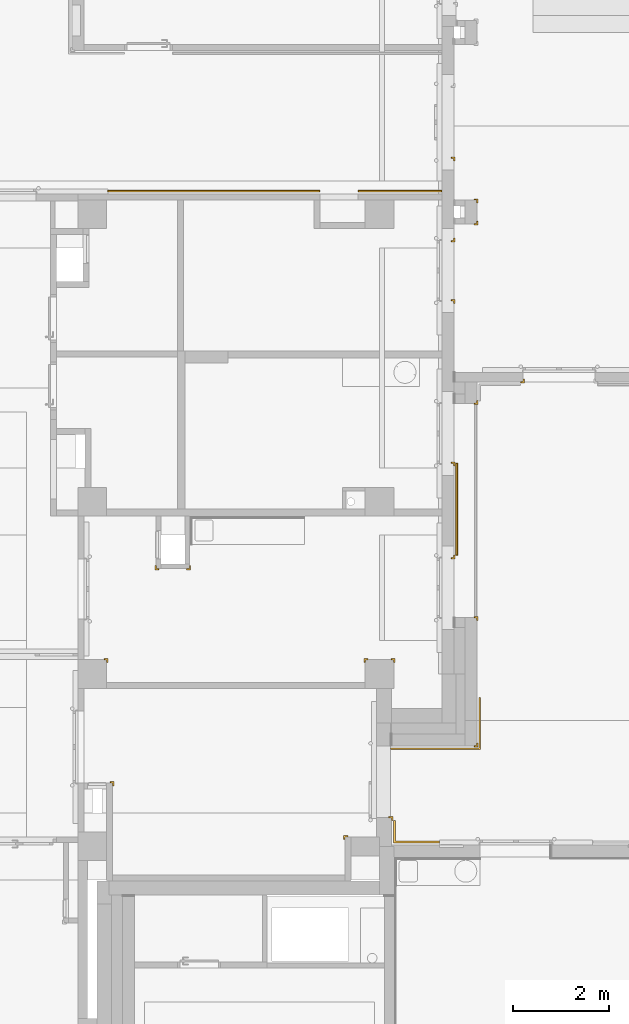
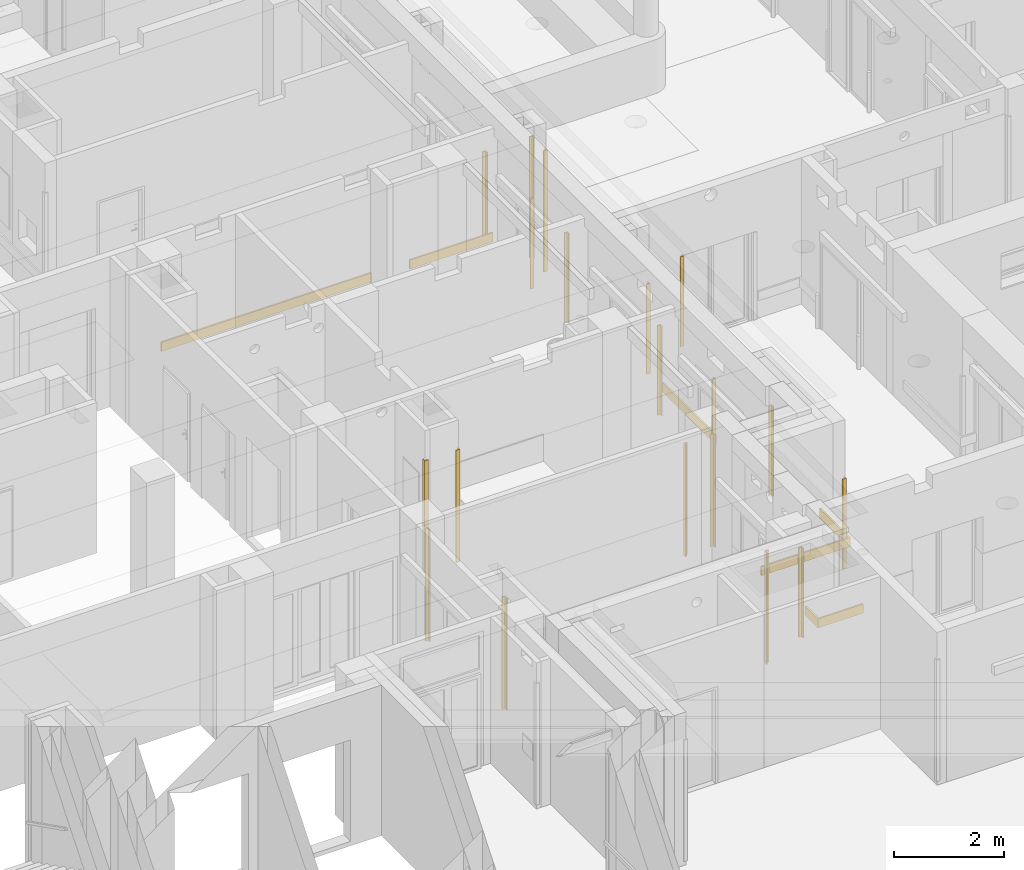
# One storey, part 133 of 140: 24 railings.
"""IFC4 building model written with IfcOpenShell, lengths in metres."""

from ifc_helpers import new_model, entity, si_unit, converted_unit, derived_unit, frame, origin, place, context, subcontext, project, spatial, faceted_brep, element, save


model = new_model("IFC4")

# Units and contexts
model_context = context("Model", 3, precision=1e-05, world=origin())
body_context = subcontext(model_context, "Body", "Model", "MODEL_VIEW")
ifc_project = project(units=[si_unit("LENGTHUNIT", "METRE"), si_unit("AREAUNIT", "SQUARE_METRE"), si_unit("VOLUMEUNIT", "CUBIC_METRE"), si_unit("MASSUNIT", "GRAM", prefix="KILO"), converted_unit("PLANEANGLEUNIT", "DEGREE", entity("IfcPlaneAngleMeasure", 0.0174532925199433), si_unit("PLANEANGLEUNIT", "RADIAN"), dimensions=[0, 0, 0, 0, 0, 0, 0]), derived_unit("THERMALTRANSMITTANCEUNIT", [(si_unit("POWERUNIT", "WATT"), 1), (si_unit("THERMODYNAMICTEMPERATUREUNIT", "KELVIN"), -1), (si_unit("LENGTHUNIT", "METRE"), -2)]), derived_unit("VOLUMETRICFLOWRATEUNIT", [(si_unit("LENGTHUNIT", "METRE"), 3), (converted_unit("TIMEUNIT", "hour", entity("IfcTimeMeasure", 3600.0), si_unit("TIMEUNIT", "SECOND"), dimensions=[0, 0, 1, 0, 0, 0, 0]), -1), (si_unit("LENGTHUNIT", "METRE"), -1)])], contexts=[model_context])

# Site, building, storey
site_placement = place(None, origin())
site = spatial("IfcSite", under=ifc_project, at=site_placement, Name="3. ASŘ", CompositionType="ELEMENT")
building_placement = place(site_placement, origin())
building = spatial("IfcBuilding", under=site, at=building_placement, Name="Pavilon C", CompositionType="ELEMENT")
storey_placement = place(building_placement, origin())
storey = spatial("IfcBuildingStorey", under=building, at=storey_placement, Name="Půdorys 1.NP", CompositionType="ELEMENT", Elevation=0.0)

# Railings
railing_1_placement = place(storey_placement, frame((51.924, 12.98, 0.1)))
element("IfcRailing", 1, at=railing_1_placement, inside=storey, Name="OCHRANA ROHŮ", PredefinedType="USERDEFINED", context=body_context, shape_type="Brep", body=[
    faceted_brep([(0.076, 0.076, 2.7), (0.056, 0.076, 2.7), (0.056, 0.076, 4.54747350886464e-16), (0.076, 0.076, 0.0), (0.076, 0.0, 2.7), (0.0, 0.0, 2.7), (0.0, 0.02, 2.7), (0.056, 0.02, 2.7), (0.056, 0.02, 4.54747350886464e-16), (0.0, 0.02, 4.54747350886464e-16), (0.0, 0.0, 0.0), (0.076, 0.0, 0.0)], [[[0, 1, 2, 3]], [[0, 4, 5, 6, 7, 1]], [[1, 7, 8, 2]], [[2, 8, 9, 10, 11, 3]], [[3, 11, 4, 0]], [[5, 10, 9, 6]], [[7, 6, 9, 8]], [[11, 10, 5, 4]]], orient=[[False], [False], [False], [False], [False], [False], [False], [False]]),
])
railing_2_placement = place(storey_placement, frame((51.924, 13.444, 0.1)))
element("IfcRailing", 2, at=railing_2_placement, inside=storey, Name="OCHRANA ROHŮ", PredefinedType="USERDEFINED", context=body_context, shape_type="Brep", body=[
    faceted_brep([(0.0, 0.076, 2.7), (0.0, 0.056, 2.7), (0.0, 0.056, 4.54747350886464e-16), (0.0, 0.076, 0.0), (0.076, 0.076, 2.7), (0.076, 0.0, 2.7), (0.056, 0.0, 2.7), (0.056, 0.056, 2.7), (0.056, 0.056, 4.54747350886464e-16), (0.056, 0.0, 4.54747350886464e-16), (0.076, 0.0, 0.0), (0.076, 0.076, 0.0)], [[[0, 1, 2, 3]], [[0, 4, 5, 6, 7, 1]], [[1, 7, 8, 2]], [[2, 8, 9, 10, 11, 3]], [[3, 11, 4, 0]], [[5, 10, 9, 6]], [[7, 6, 9, 8]], [[11, 10, 5, 4]]], orient=[[False], [False], [False], [False], [False], [False], [False], [False]]),
])
railing_3_placement = place(storey_placement, frame((51.444, 14.319, 0.1)))
element("IfcRailing", 3, at=railing_3_placement, inside=storey, Name="OCHRANA ROHŮ", PredefinedType="USERDEFINED", context=body_context, shape_type="Brep", body=[
    faceted_brep([(0.0, 0.076, 2.0), (0.0, 0.056, 2.0), (0.0, 0.056, 3.41060513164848e-16), (0.0, 0.076, -1.13686837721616e-16), (0.076, 0.076, 2.0), (0.076, 0.0, 2.0), (0.056, 0.0, 2.0), (0.056, 0.056, 2.0), (0.056, 0.056, 3.41060513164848e-16), (0.056, 0.0, 3.41060513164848e-16), (0.076, 0.0, -1.13686837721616e-16), (0.076, 0.076, -1.13686837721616e-16)], [[[0, 1, 2, 3]], [[0, 4, 5, 6, 7, 1]], [[1, 7, 8, 2]], [[2, 8, 9, 10, 11, 3]], [[3, 11, 4, 0]], [[5, 10, 9, 6]], [[7, 6, 9, 8]], [[11, 10, 5, 4]]], orient=[[False], [False], [False], [False], [False], [False], [False], [False]]),
])
for number, where in (
    (4, (51.444, 12.63, 0.1)),
    (5, (51.924, 9.22999999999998, 0.1)),
    (6, (52.894, 9.67999999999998, 0.1)),
    (7, (51.444, 6.00499999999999, 0.1)),
    (8, (51.924, 2.08, 0.1)),
):
    element("IfcRailing", number, at=place(storey_placement, frame(where)), inside=storey, Name="OCHRANA ROHŮ", PredefinedType="USERDEFINED", context=body_context, shape_type="Brep", body=[
        faceted_brep([(0.0, 0.0, 2.0), (0.0, 0.0, -1.13686837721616e-16), (0.0, 0.02, 3.41060513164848e-16), (0.0, 0.02, 2.0), (0.056, 0.02, 2.0), (0.056, 0.076, 2.0), (0.076, 0.076, 2.0), (0.076, 0.0, 2.0), (0.056, 0.02, 3.41060513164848e-16), (0.076, 0.0, -1.13686837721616e-16), (0.076, 0.076, -1.13686837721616e-16), (0.056, 0.076, 3.41060513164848e-16)], [[[0, 1, 2, 3]], [[0, 3, 4, 5, 6, 7]], [[3, 2, 8, 4]], [[2, 1, 9, 10, 11, 8]], [[1, 0, 7, 9]], [[6, 5, 11, 10]], [[4, 8, 11, 5]], [[9, 7, 6, 10]]], orient=[[False], [False], [False], [False], [False], [False], [False], [False]]),
    ])
for number, where in (
    (9, (51.444, 11.344, 0.1)),
    (10, (51.444, 7.94399999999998, 0.1)),
    (11, (51.924, 4.71899999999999, 0.1)),
    (12, (50.144, 0.543999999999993, 0.1)),
):
    element("IfcRailing", number, at=place(storey_placement, frame(where)), inside=storey, Name="OCHRANA ROHŮ", PredefinedType="USERDEFINED", context=body_context, shape_type="Brep", body=[
        faceted_brep([(0.0, 0.076, 2.0), (0.0, 0.056, 2.0), (0.0, 0.056, 3.41060513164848e-16), (0.0, 0.076, -1.13686837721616e-16), (0.076, 0.076, 2.0), (0.076, 0.0, 2.0), (0.056, 0.0, 2.0), (0.056, 0.056, 2.0), (0.056, 0.056, 3.41060513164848e-16), (0.056, 0.0, 3.41060513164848e-16), (0.076, 0.0, -1.13686837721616e-16), (0.076, 0.076, -1.13686837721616e-16)], [[[0, 1, 2, 3]], [[0, 4, 5, 6, 7, 1]], [[1, 7, 8, 2]], [[2, 8, 9, 10, 11, 3]], [[3, 11, 4, 0]], [[5, 10, 9, 6]], [[7, 6, 9, 8]], [[11, 10, 5, 4]]], orient=[[False], [False], [False], [False], [False], [False], [False], [False]]),
    ])
railing_4_placement = place(storey_placement, frame((49.5, 13.6675, 0.597)))
element("IfcRailing", 13, at=railing_4_placement, inside=storey, Name="NÁRAZOVÉ SVODIDLO", PredefinedType="USERDEFINED", context=body_context, shape_type="Brep", body=[
    faceted_brep([(0.0, 0.035, 0.203), (0.0, 0.0, 0.203), (0.0, 0.0, 0.0), (0.0, 0.035, 0.0), (1.75, 0.035, 0.203), (1.75, 0.035, 0.0), (1.75, 0.0, 0.0), (1.75, 0.0, 0.203)], [[[0, 1, 2, 3]], [[4, 5, 6, 7]], [[0, 4, 7, 1]], [[1, 7, 6, 2]], [[2, 6, 5, 3]], [[3, 5, 4, 0]]], orient=[[False], [False], [False], [False], [False], [False]]),
])
railing_5_placement = place(storey_placement, frame((44.275, 13.6675, 0.597)))
element("IfcRailing", 14, at=railing_5_placement, inside=storey, Name="NÁRAZOVÉ SVODIDLO", PredefinedType="USERDEFINED", context=body_context, shape_type="Brep", body=[
    faceted_brep([(0.0, 0.035, 0.203), (0.0, 0.0, 0.203), (0.0, 0.0, 0.0), (0.0, 0.035, 0.0), (4.425, 0.035, 0.203), (4.425, 0.035, 0.0), (4.425, 0.0, 0.0), (4.425, 0.0, 0.203)], [[[0, 1, 2, 3]], [[4, 5, 6, 7]], [[0, 4, 7, 1]], [[1, 7, 6, 2]], [[2, 6, 5, 3]], [[3, 5, 4, 0]]], orient=[[False], [False], [False], [False], [False], [False]]),
])
railing_6_placement = place(storey_placement, frame((50.18, 2.0225, 0.597)))
element("IfcRailing", 15, at=railing_6_placement, inside=storey, Name="NÁRAZOVÉ SVODIDLO", PredefinedType="USERDEFINED", context=body_context, shape_type="Brep", body=[
    faceted_brep([(0.0, 0.0350000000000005, 0.203), (0.0, 4.54747350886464e-16, 0.203), (0.0, 4.54747350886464e-16, 0.0), (0.0, 0.0350000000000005, 0.0), (1.8425, 0.0350000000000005, 0.203), (1.8425, 1.08249999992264, 0.203), (1.8775, 1.08249999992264, 0.203), (1.8775, 2.27373675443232e-16, 0.203), (1.8775, 2.27373675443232e-16, 0.0), (1.8775, 1.08249999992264, 0.0), (1.8425, 1.08249999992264, 0.0), (1.8425, 0.035, 0.0)], [[[0, 1, 2, 3]], [[0, 4, 5, 6, 7, 1]], [[1, 7, 8, 2]], [[2, 8, 9, 10, 11, 3]], [[3, 11, 4, 0]], [[5, 10, 9, 6]], [[7, 6, 9, 8]], [[11, 10, 5, 4]]], orient=[[False], [False], [False], [False], [False], [False], [False], [False]]),
])
railing_7_placement = place(storey_placement, frame((50.2425, 0.0725000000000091, 0.597)))
element("IfcRailing", 16, at=railing_7_placement, inside=storey, Name="NÁRAZOVÉ SVODIDLO", PredefinedType="USERDEFINED", context=body_context, shape_type="Brep", body=[
    faceted_brep([(0.9575, -1.4210854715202e-17, 0.203), (0.9575, 0.035, 0.203), (0.9575, 0.035, 0.0), (0.9575, 2.8421709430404e-17, 0.0), (0.0, 2.27373675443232e-16, 0.203), (0.0, 0.471499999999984, 0.203), (0.035, 0.471499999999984, 0.203), (0.035, 0.0350000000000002, 0.203), (0.035, 0.0350000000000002, 0.0), (0.035, 0.471499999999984, 0.0), (0.0, 0.471499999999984, 0.0), (0.0, 2.55795384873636e-16, 0.0)], [[[0, 1, 2, 3]], [[0, 4, 5, 6, 7, 1]], [[1, 7, 8, 2]], [[2, 8, 9, 10, 11, 3]], [[3, 11, 4, 0]], [[5, 10, 9, 6]], [[7, 6, 9, 8]], [[11, 10, 5, 4]]], orient=[[False], [False], [False], [False], [False], [False], [False], [False]]),
])
railing_8_placement = place(storey_placement, frame((49.205, 0.143999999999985, 0.1)))
element("IfcRailing", 17, at=railing_8_placement, inside=storey, Name="OCHRANA ROHŮ", PredefinedType="USERDEFINED", context=body_context, shape_type="Brep", body=[
    faceted_brep([(0.0, 0.0, 2.5), (0.02, 0.0, 2.5), (0.02, 0.0, 4.54747350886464e-16), (0.0, 0.0, 0.0), (0.0, 0.076, 2.5), (0.076, 0.076, 2.5), (0.076, 0.056, 2.5), (0.02, 0.056, 2.5), (0.02, 0.056, 4.54747350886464e-16), (0.076, 0.056, 4.54747350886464e-16), (0.076, 0.076, 0.0), (0.0, 0.076, 0.0)], [[[0, 1, 2, 3]], [[0, 4, 5, 6, 7, 1]], [[1, 7, 8, 2]], [[2, 8, 9, 10, 11, 3]], [[3, 11, 4, 0]], [[5, 10, 9, 6]], [[7, 6, 9, 8]], [[11, 10, 5, 4]]], orient=[[False], [False], [False], [False], [False], [False], [False], [False]]),
])
for number, where in (
    (18, (44.319, 1.26899999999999, 0.1)),
    (19, (44.194, 3.84399999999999, 0.1)),
):
    element("IfcRailing", number, at=place(storey_placement, frame(where)), inside=storey, Name="OCHRANA ROHŮ", PredefinedType="USERDEFINED", context=body_context, shape_type="Brep", body=[
        faceted_brep([(0.0, 0.076, 2.5), (0.0, 0.056, 2.5), (0.0, 0.056, 4.54747350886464e-16), (0.0, 0.076, 0.0), (0.076, 0.076, 2.5), (0.076, 0.0, 2.5), (0.056, 0.0, 2.5), (0.056, 0.056, 2.5), (0.056, 0.056, 4.54747350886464e-16), (0.056, 0.0, 4.54747350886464e-16), (0.076, 0.0, 0.0), (0.076, 0.076, 0.0)], [[[0, 1, 2, 3]], [[0, 4, 5, 6, 7, 1]], [[1, 7, 8, 2]], [[2, 8, 9, 10, 11, 3]], [[3, 11, 4, 0]], [[5, 10, 9, 6]], [[7, 6, 9, 8]], [[11, 10, 5, 4]]], orient=[[False], [False], [False], [False], [False], [False], [False], [False]]),
    ])
railing_9_placement = place(storey_placement, frame((45.924, 5.77999999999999, 0.1)))
element("IfcRailing", 20, at=railing_9_placement, inside=storey, Name="OCHRANA ROHŮ", PredefinedType="USERDEFINED", context=body_context, shape_type="Brep", body=[
    faceted_brep([(0.076, 0.076, 2.5), (0.056, 0.076, 2.5), (0.056, 0.076, 4.54747350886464e-16), (0.076, 0.076, 0.0), (0.076, 0.0, 2.5), (0.0, 0.0, 2.5), (0.0, 0.02, 2.5), (0.056, 0.02, 2.5), (0.056, 0.02, 4.54747350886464e-16), (0.0, 0.02, 4.54747350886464e-16), (0.0, 0.0, 0.0), (0.076, 0.0, 0.0)], [[[0, 1, 2, 3]], [[0, 4, 5, 6, 7, 1]], [[1, 7, 8, 2]], [[2, 8, 9, 10, 11, 3]], [[3, 11, 4, 0]], [[5, 10, 9, 6]], [[7, 6, 9, 8]], [[11, 10, 5, 4]]], orient=[[False], [False], [False], [False], [False], [False], [False], [False]]),
])
railing_10_placement = place(storey_placement, frame((45.26, 5.77999999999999, 0.1)))
element("IfcRailing", 21, at=railing_10_placement, inside=storey, Name="OCHRANA ROHŮ", PredefinedType="USERDEFINED", context=body_context, shape_type="Brep", body=[
    faceted_brep([(0.076, 0.0, 2.5), (0.076, 0.02, 2.5), (0.076, 0.02, 4.54747350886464e-16), (0.076, 0.0, 0.0), (0.0, 0.0, 2.5), (0.0, 0.076, 2.5), (0.02, 0.076, 2.5), (0.02, 0.02, 2.5), (0.02, 0.02, 4.54747350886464e-16), (0.02, 0.076, 4.54747350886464e-16), (0.0, 0.076, 0.0), (0.0, 0.0, 0.0)], [[[0, 1, 2, 3]], [[0, 4, 5, 6, 7, 1]], [[1, 7, 8, 2]], [[2, 8, 9, 10, 11, 3]], [[3, 11, 4, 0]], [[5, 10, 9, 6]], [[7, 6, 9, 8]], [[11, 10, 5, 4]]], orient=[[False], [False], [False], [False], [False], [False], [False], [False]]),
])
railing_11_placement = place(storey_placement, frame((49.63, 3.84399999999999, 0.1)))
element("IfcRailing", 22, at=railing_11_placement, inside=storey, Name="OCHRANA ROHŮ", PredefinedType="USERDEFINED", context=body_context, shape_type="Brep", body=[
    faceted_brep([(0.0, 0.0, 2.5), (0.02, 0.0, 2.5), (0.02, 0.0, 4.54747350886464e-16), (0.0, 0.0, 0.0), (0.0, 0.076, 2.5), (0.076, 0.076, 2.5), (0.076, 0.056, 2.5), (0.02, 0.056, 2.5), (0.02, 0.056, 4.54747350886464e-16), (0.076, 0.056, 4.54747350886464e-16), (0.076, 0.076, 0.0), (0.0, 0.076, 0.0)], [[[0, 1, 2, 3]], [[0, 4, 5, 6, 7, 1]], [[1, 7, 8, 2]], [[2, 8, 9, 10, 11, 3]], [[3, 11, 4, 0]], [[5, 10, 9, 6]], [[7, 6, 9, 8]], [[11, 10, 5, 4]]], orient=[[False], [False], [False], [False], [False], [False], [False], [False]]),
])
railing_12_placement = place(storey_placement, frame((50.194, 3.844, 0.1)))
element("IfcRailing", 23, at=railing_12_placement, inside=storey, Name="OCHRANA ROHŮ", PredefinedType="USERDEFINED", context=body_context, shape_type="Brep", body=[
    faceted_brep([(0.0, 0.076, 2.5), (0.0, 0.056, 2.5), (0.0, 0.056, 4.54747350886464e-16), (0.0, 0.076, 0.0), (0.076, 0.076, 2.5), (0.076, 0.0, 2.5), (0.056, 0.0, 2.5), (0.056, 0.056, 2.5), (0.056, 0.056, 4.54747350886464e-16), (0.056, 0.0, 4.54747350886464e-16), (0.076, 0.0, 0.0), (0.076, 0.076, 0.0)], [[[0, 1, 2, 3]], [[0, 4, 5, 6, 7, 1]], [[1, 7, 8, 2]], [[2, 8, 9, 10, 11, 3]], [[3, 11, 4, 0]], [[5, 10, 9, 6]], [[7, 6, 9, 8]], [[11, 10, 5, 4]]], orient=[[False], [False], [False], [False], [False], [False], [False], [False]]),
])
railing_13_placement = place(storey_placement, frame((51.5425, 6.08099999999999, 0.597)))
element("IfcRailing", 24, at=railing_13_placement, inside=storey, Name="NÁRAZOVÉ SVODIDLO", PredefinedType="USERDEFINED", context=body_context, shape_type="Brep", body=[
    faceted_brep([(0.0, 0.0, 0.203), (0.035, 0.0, 0.203), (0.035, 0.0, 0.0), (0.0, 0.0, 0.0), (0.0, 1.91899999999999, 0.203), (0.0, 1.91899999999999, 0.0), (0.035, 1.91899999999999, 0.0), (0.035, 1.91899999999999, 0.203)], [[[0, 1, 2, 3]], [[4, 5, 6, 7]], [[0, 4, 7, 1]], [[1, 7, 6, 2]], [[2, 6, 5, 3]], [[3, 5, 4, 0]]], orient=[[False], [False], [False], [False], [False], [False]]),
])

save(model, "model.ifc")
